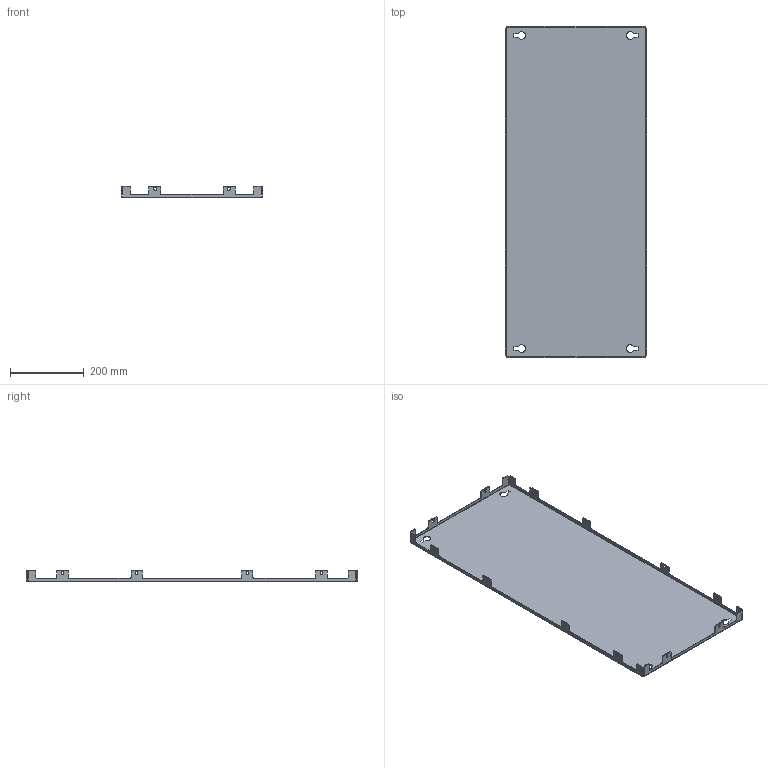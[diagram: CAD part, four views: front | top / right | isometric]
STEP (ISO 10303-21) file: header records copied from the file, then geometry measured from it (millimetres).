
FILE_DESCRIPTION (( 'STEP AP203' ), '1' );
FILE_NAME ('R5LPS1005.STEP', '2021-12-17T12:32:11', ( '' ), ( '' ), 'SwSTEP 2.0', 'SolidWorks 2020', '' );
FILE_SCHEMA (( 'CONFIG_CONTROL_DESIGN' ));
Length unit declared in the file: millimetre
Products named in the file (1): R5LPS1005
Bounding box: 384 x 898 x 32.5 mm (x, y, z)
Volume: 745612 mm3; surface area: 753853.9 mm2
Topology: 1 solids, 1 shells, 276 faces, 790 edges, 516 vertices
Faces by surface type: plane 178, cylinder 98
Entity records: 9115 total; most frequent: CARTESIAN_POINT 1583, ORIENTED_EDGE 1580, DIRECTION 1540, EDGE_CURVE 790, LINE 594, VECTOR 594, VERTEX_POINT 516, AXIS2_PLACEMENT_3D 473
